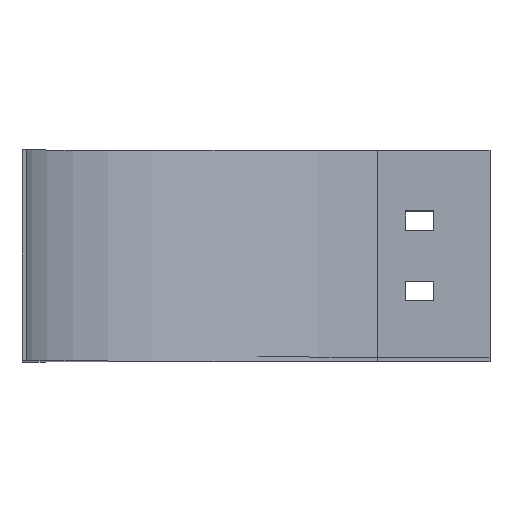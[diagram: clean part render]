
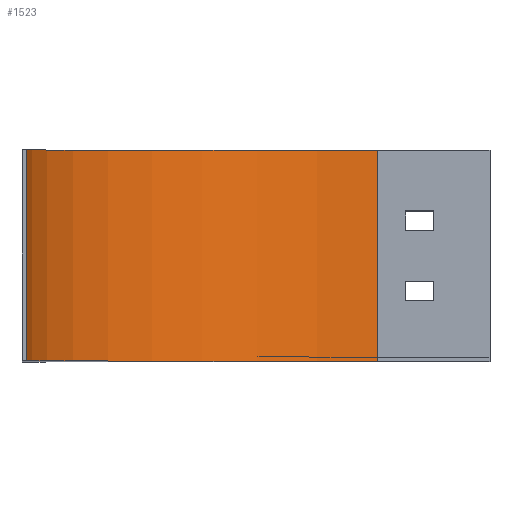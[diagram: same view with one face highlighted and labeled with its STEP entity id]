
A CAD part, top view. The second image highlights one B-rep face of the part: STEP entity #1523.
In plain terms, the highlighted cylindrical face has radius 125 mm (diameter 250 mm), a partial arc.
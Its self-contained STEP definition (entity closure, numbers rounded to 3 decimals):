
#17 = EDGE_CURVE ( 'NONE', #831, #1185, #1377, .T. ) ;
#90 = DIRECTION ( 'NONE',  ( 0., 0., -1. ) ) ;
#144 = DIRECTION ( 'NONE',  ( 0., 0., -1. ) ) ;
#160 = ORIENTED_EDGE ( 'NONE', *, *, #551, .T. ) ;
#164 = CARTESIAN_POINT ( 'NONE',  ( 0., 75., -125. ) ) ;
#203 = CIRCLE ( 'NONE', #1156, 125. ) ;
#221 = CARTESIAN_POINT ( 'NONE',  ( -125., 75., 0. ) ) ;
#413 = CARTESIAN_POINT ( 'NONE',  ( -125., 75., 0. ) ) ;
#474 = CARTESIAN_POINT ( 'NONE',  ( 0., 75., 0. ) ) ;
#507 = AXIS2_PLACEMENT_3D ( 'NONE', #1311, #1574, #144 ) ;
#551 = EDGE_CURVE ( 'NONE', #1185, #629, #670, .T. ) ;
#573 = VECTOR ( 'NONE', #880, 1000. ) ;
#610 = EDGE_CURVE ( 'NONE', #620, #629, #820, .T. ) ;
#620 = VERTEX_POINT ( 'NONE', #713 ) ;
#629 = VERTEX_POINT ( 'NONE', #1469 ) ;
#643 = FACE_OUTER_BOUND ( 'NONE', #947, .T. ) ;
#670 = CIRCLE ( 'NONE', #507, 125. ) ;
#672 = ORIENTED_EDGE ( 'NONE', *, *, #17, .T. ) ;
#713 = CARTESIAN_POINT ( 'NONE',  ( 0., 75., -125. ) ) ;
#773 = EDGE_CURVE ( 'NONE', #831, #620, #203, .T. ) ;
#807 = VECTOR ( 'NONE', #1326, 1000. ) ;
#820 = LINE ( 'NONE', #164, #807 ) ;
#831 = VERTEX_POINT ( 'NONE', #413 ) ;
#834 = ORIENTED_EDGE ( 'NONE', *, *, #610, .F. ) ;
#880 = DIRECTION ( 'NONE',  ( 0., -1., 0. ) ) ;
#947 = EDGE_LOOP ( 'NONE', ( #160, #834, #1517, #672 ) ) ;
#991 = CYLINDRICAL_SURFACE ( 'NONE', #1153, 125. ) ;
#992 = CARTESIAN_POINT ( 'NONE',  ( 0., 75., 0. ) ) ;
#1129 = DIRECTION ( 'NONE',  ( 0., 0., -1. ) ) ;
#1153 = AXIS2_PLACEMENT_3D ( 'NONE', #474, #1398, #90 ) ;
#1156 = AXIS2_PLACEMENT_3D ( 'NONE', #992, #1655, #1129 ) ;
#1185 = VERTEX_POINT ( 'NONE', #1356 ) ;
#1311 = CARTESIAN_POINT ( 'NONE',  ( 0., 0., 0. ) ) ;
#1326 = DIRECTION ( 'NONE',  ( 0., -1., 0. ) ) ;
#1356 = CARTESIAN_POINT ( 'NONE',  ( -125., 0., 0. ) ) ;
#1377 = LINE ( 'NONE', #221, #573 ) ;
#1398 = DIRECTION ( 'NONE',  ( 0., -1., 0. ) ) ;
#1469 = CARTESIAN_POINT ( 'NONE',  ( 0., 0., -125. ) ) ;
#1517 = ORIENTED_EDGE ( 'NONE', *, *, #773, .F. ) ;
#1523 = ADVANCED_FACE ( 'NONE', ( #643 ), #991, .F. ) ;
#1574 = DIRECTION ( 'NONE',  ( 0., -1., 0. ) ) ;
#1655 = DIRECTION ( 'NONE',  ( 0., -1., 0. ) ) ;
